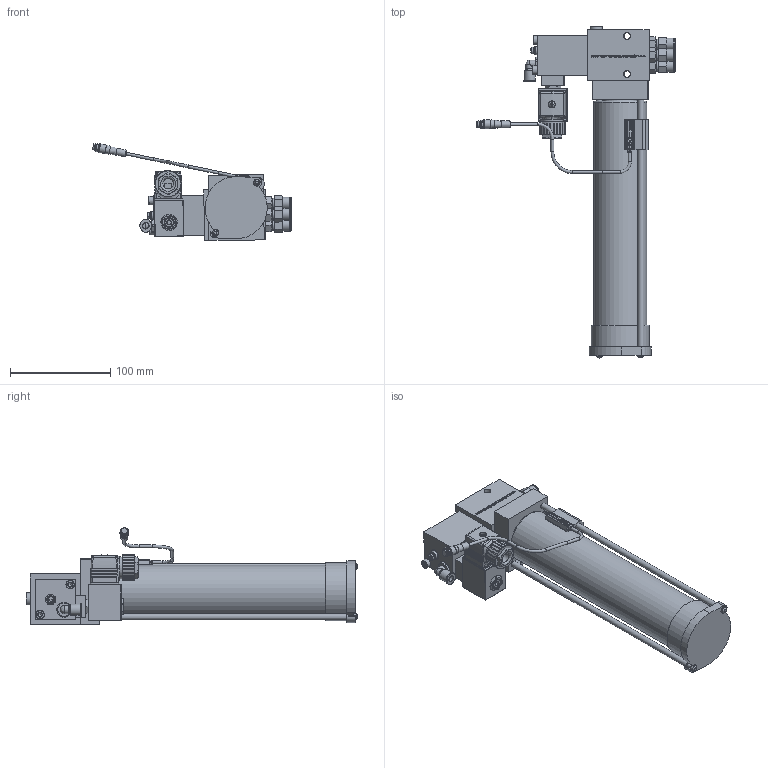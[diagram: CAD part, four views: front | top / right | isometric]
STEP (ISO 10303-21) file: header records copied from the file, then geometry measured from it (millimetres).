
FILE_DESCRIPTION (( 'STEP AP214' ), '1' );
FILE_NAME ('1470_0206_04sf_XXX.STEP', '2026-04-29T09:27:11', ( '' ), ( '' ), 'SwSTEP 2.0', 'SolidWorks 2022', '' );
FILE_SCHEMA (( 'AUTOMOTIVE_DESIGN' ));
Length unit declared in the file: millimetre
Products named in the file (19): Klemmteil_Lubeshutle; TRO_Magnetventil_Stecker; Lubeshuttle_Kartusche; DPF_Pumpenausgangsverschraubung; 3D-LEITUNG_MIT_M8-STECKER_S071327_M8-MARKETINGMODELL_2D9; RZT7-2_kurz^3D-MARKETINGMODELL_S257244_Standard; DPF_Luftverschraubung; 04E33_1801_MAGNETSPULE_FORM-A; DPF_Pumpenkoerper_2_fach; DPF_Pumpenkoerper_2fach_4fach; 1470_0206_04sf_XXX; DPF_Sensor; DPF_DECKEL_Kartusche; DPF_10_1; DPF_distantsscheibeibe_1; DPF70_Lubeshuttle-Adapter_Test; DPF_70_Ankerstange; DPF_Funktionskontrolle_Stecker; ZYLSCHRAUBE_M5X10
Assembly tree (24 placements, depth 3):
  1470_0206_04sf_XXX
    DPF_70_Ankerstange  x2
    Lubeshuttle_Kartusche
    DPF_DECKEL_Kartusche
    DPF_distantsscheibeibe_1
    Klemmteil_Lubeshutle
    DPF_Sensor
      RZT7-2_kurz^3D-MARKETINGMODELL_S257244_Standard
      3D-LEITUNG_MIT_M8-STECKER_S071327_M8-MARKETINGMODELL_2D9
    DPF70_Lubeshuttle-Adapter_Test
    DPF_Pumpenkoerper_2fach_4fach
      DPF_Pumpenkoerper_2_fach
      DPF_Pumpenausgangsverschraubung  x2
      DPF_Luftverschraubung
      04E33_1801_MAGNETSPULE_FORM-A
      TRO_Magnetventil_Stecker
      DPF_10_1  x2
      DPF_Funktionskontrolle_Stecker
      ZYLSCHRAUBE_M5X10  x2
    DPF_Pumpenausgangsverschraubung  x2
Bounding box: 198.46 x 331 x 96.66 mm (x, y, z)
Volume: 959418.9 mm3; surface area: 151224.6 mm2
Topology: 22 solids, 22 shells, 1388 faces, 3587 edges, 2328 vertices
Faces by surface type: plane 783, cylinder 321, bspline 202, cone 58, torus 19, sphere 5
Full cylindrical faces by diameter (mm): 1 x3, 1.47 x1, 1.5 x3, 1.6 x1, 2.5 x1, 2.9 x5, 3.5 x2, 4 x3, 5 x8, 5.75 x1, 6 x8, 6.2 x1, 6.25 x1, 6.5 x6, 6.6 x2, 6.75 x1, 6.9 x1, 7 x2, 8 x3, 8.4 x2, 8.5 x2, 8.8 x1, 9 x4, 9.5 x1, 10 x10, 10.3 x1, 10.5 x2, 11 x2, 11.2 x1, 12 x9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
Entity records: 52542 total; most frequent: CARTESIAN_POINT 19625, ORIENTED_EDGE 6072, DIRECTION 5248, EDGE_CURVE 3036, VERTEX_POINT 2046, VECTOR 1970, LINE 1970, AXIS2_PLACEMENT_3D 1639
